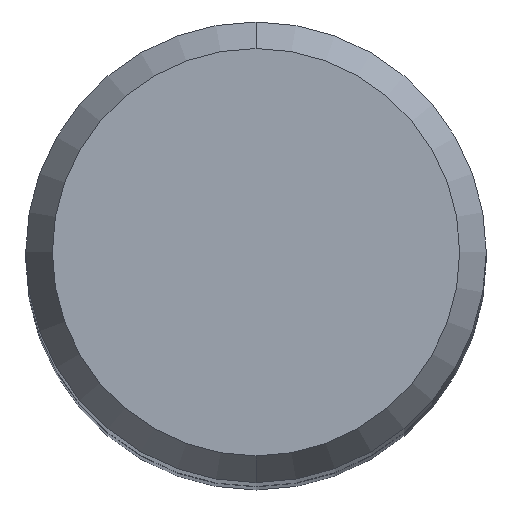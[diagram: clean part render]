
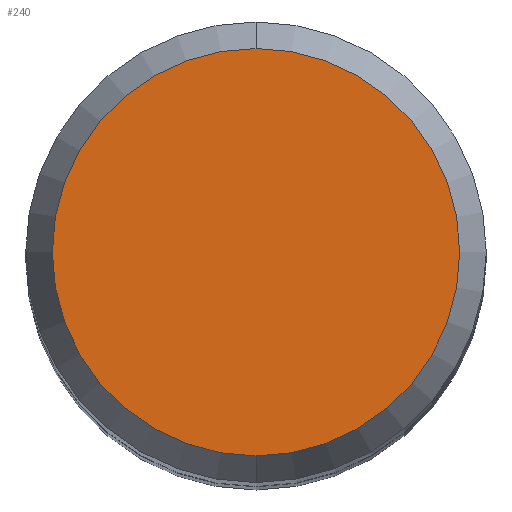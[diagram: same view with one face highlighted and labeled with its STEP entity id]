
A CAD part, top view. The second image highlights one B-rep face of the part: STEP entity #240.
In plain terms, the highlighted planar face has unit normal (0, 0, 1).
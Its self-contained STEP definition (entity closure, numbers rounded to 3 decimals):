
#238=VERTEX_POINT('',#604);
#240=ADVANCED_FACE('',(#606),#607,.T.);
#330=VERTEX_POINT('',#711);
#446=EDGE_CURVE('',#330,#238,#840,.T.);
#460=EDGE_CURVE('',#238,#330,#854,.T.);
#604=CARTESIAN_POINT('',(0.0,3.538,0.0));
#606=FACE_OUTER_BOUND('',#1028,.T.);
#607=PLANE('',#1029);
#711=CARTESIAN_POINT('',(0.,-3.538,0.0));
#840=CIRCLE('',#1506,3.538);
#854=CIRCLE('',#1524,3.538);
#1028=EDGE_LOOP('',(#1730,#1731));
#1029=AXIS2_PLACEMENT_3D('',#1732,#1733,#1734);
#1506=AXIS2_PLACEMENT_3D('',#2009,#2010,#2011);
#1524=AXIS2_PLACEMENT_3D('',#2021,#2022,#2023);
#1730=ORIENTED_EDGE('',*,*,#460,.F.);
#1731=ORIENTED_EDGE('',*,*,#446,.F.);
#1732=CARTESIAN_POINT('',(0.0,1.769,0.0));
#1733=DIRECTION('',(-0.0,0.0,1.0));
#1734=DIRECTION('',(0.0,-1.0,0.0));
#2009=CARTESIAN_POINT('',(0.0,0.0,0.0));
#2010=DIRECTION('',(0.0,0.0,-1.0));
#2011=DIRECTION('',(0.0,1.0,0.0));
#2021=CARTESIAN_POINT('',(0.0,0.0,0.0));
#2022=DIRECTION('',(0.0,0.0,-1.0));
#2023=DIRECTION('',(0.0,1.0,0.0));
